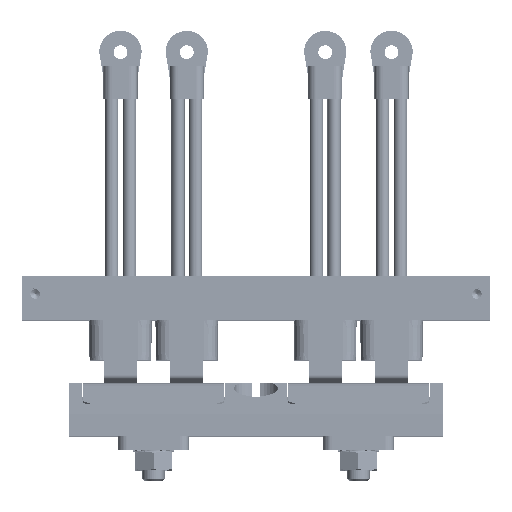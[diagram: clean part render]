
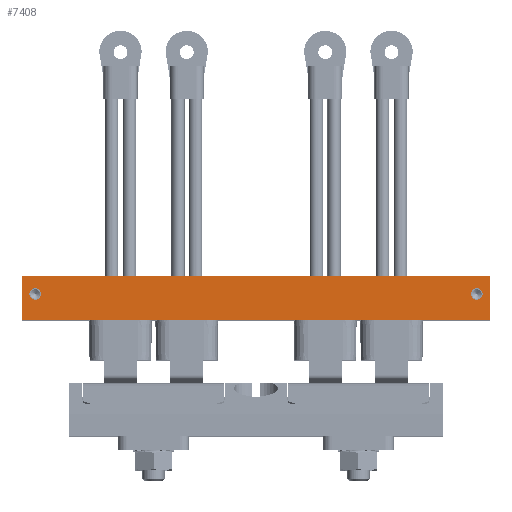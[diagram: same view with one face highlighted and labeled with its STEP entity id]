
A CAD part, top view. The second image highlights one B-rep face of the part: STEP entity #7408.
In plain terms, the highlighted planar face has unit normal (0, 0, 1) as drawn and (-1, 0, 0) by its records, which use the part's own axes.
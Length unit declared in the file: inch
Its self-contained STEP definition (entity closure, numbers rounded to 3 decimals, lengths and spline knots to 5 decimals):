
#148 = VECTOR ( 'NONE', #9162, 39.37008 ) ;
#579 = DIRECTION ( 'NONE',  ( 0., 0., -1. ) ) ;
#923 = FACE_BOUND ( 'NONE', #12789, .T. ) ;
#942 = DIRECTION ( 'NONE',  ( 0., 0., 1. ) ) ;
#1395 = CARTESIAN_POINT ( 'NONE',  ( 0., 0.625, -6.625 ) ) ;
#1423 = CIRCLE ( 'NONE', #25937, 0.082 ) ;
#1904 = EDGE_CURVE ( 'NONE', #3060, #21132, #21987, .T. ) ;
#2636 = DIRECTION ( 'NONE',  ( 0., -1., 0. ) ) ;
#3018 = ORIENTED_EDGE ( 'NONE', *, *, #18405, .F. ) ;
#3036 = CARTESIAN_POINT ( 'NONE',  ( 0., 0., 0. ) ) ;
#3060 = VERTEX_POINT ( 'NONE', #14306 ) ;
#3257 = CARTESIAN_POINT ( 'NONE',  ( 0., 0.625, 0. ) ) ;
#3474 = EDGE_LOOP ( 'NONE', ( #15408, #3920, #13281, #4333 ) ) ;
#3831 = EDGE_CURVE ( 'NONE', #8842, #25436, #22710, .T. ) ;
#3920 = ORIENTED_EDGE ( 'NONE', *, *, #23689, .F. ) ;
#4333 = ORIENTED_EDGE ( 'NONE', *, *, #1904, .T. ) ;
#4379 = AXIS2_PLACEMENT_3D ( 'NONE', #24167, #11947, #26198 ) ;
#4798 = DIRECTION ( 'NONE',  ( -1., 0., 0. ) ) ;
#4957 = CARTESIAN_POINT ( 'NONE',  ( 0., 0., -6.625 ) ) ;
#5282 = DIRECTION ( 'NONE',  ( 0., 0., 1. ) ) ;
#6008 = CARTESIAN_POINT ( 'NONE',  ( 0., 0.375, -6.4375 ) ) ;
#6317 = FACE_BOUND ( 'NONE', #15561, .T. ) ;
#6342 = CARTESIAN_POINT ( 'NONE',  ( 0., 0.375, -0.2695 ) ) ;
#7408 = ADVANCED_FACE ( 'NONE', ( #6317, #923, #11074 ), #8629, .F. ) ;
#7490 = DIRECTION ( 'NONE',  ( 0., -1., 0. ) ) ;
#7577 = VERTEX_POINT ( 'NONE', #3036 ) ;
#8043 = DIRECTION ( 'NONE',  ( 0., 0., 1. ) ) ;
#8128 = LINE ( 'NONE', #3257, #23770 ) ;
#8129 = CARTESIAN_POINT ( 'NONE',  ( 0., 0.375, -6.3555 ) ) ;
#8427 = VERTEX_POINT ( 'NONE', #15253 ) ;
#8629 = PLANE ( 'NONE',  #10567 ) ;
#8663 = CARTESIAN_POINT ( 'NONE',  ( 0., 0.625, 0. ) ) ;
#8842 = VERTEX_POINT ( 'NONE', #8129 ) ;
#9162 = DIRECTION ( 'NONE',  ( 0., 0., 1. ) ) ;
#9818 = AXIS2_PLACEMENT_3D ( 'NONE', #6008, #20251, #8043 ) ;
#10567 = AXIS2_PLACEMENT_3D ( 'NONE', #20838, #12725, #579 ) ;
#10933 = LINE ( 'NONE', #21220, #148 ) ;
#11074 = FACE_OUTER_BOUND ( 'NONE', #3474, .T. ) ;
#11104 = EDGE_CURVE ( 'NONE', #3060, #12741, #8128, .T. ) ;
#11669 = ORIENTED_EDGE ( 'NONE', *, *, #18025, .F. ) ;
#11947 = DIRECTION ( 'NONE',  ( -1., 0., 0. ) ) ;
#12393 = ORIENTED_EDGE ( 'NONE', *, *, #3831, .F. ) ;
#12725 = DIRECTION ( 'NONE',  ( 1., 0., 0. ) ) ;
#12741 = VERTEX_POINT ( 'NONE', #13661 ) ;
#12789 = EDGE_LOOP ( 'NONE', ( #12393, #3018 ) ) ;
#12833 = CIRCLE ( 'NONE', #13987, 0.082 ) ;
#13103 = DIRECTION ( 'NONE',  ( -1., 0., 0. ) ) ;
#13281 = ORIENTED_EDGE ( 'NONE', *, *, #11104, .F. ) ;
#13661 = CARTESIAN_POINT ( 'NONE',  ( 0., 0.625, 0. ) ) ;
#13662 = EDGE_CURVE ( 'NONE', #8427, #14951, #22678, .T. ) ;
#13987 = AXIS2_PLACEMENT_3D ( 'NONE', #17011, #4798, #19043 ) ;
#14306 = CARTESIAN_POINT ( 'NONE',  ( 0., 0.625, -6.625 ) ) ;
#14951 = VERTEX_POINT ( 'NONE', #6342 ) ;
#15253 = CARTESIAN_POINT ( 'NONE',  ( 0., 0.375, -0.1055 ) ) ;
#15408 = ORIENTED_EDGE ( 'NONE', *, *, #18117, .T. ) ;
#15561 = EDGE_LOOP ( 'NONE', ( #19498, #11669 ) ) ;
#16559 = VECTOR ( 'NONE', #7490, 39.37008 ) ;
#17011 = CARTESIAN_POINT ( 'NONE',  ( 0., 0.375, -6.4375 ) ) ;
#18025 = EDGE_CURVE ( 'NONE', #14951, #8427, #1423, .T. ) ;
#18117 = EDGE_CURVE ( 'NONE', #21132, #7577, #10933, .T. ) ;
#18405 = EDGE_CURVE ( 'NONE', #25436, #8842, #12833, .T. ) ;
#19043 = DIRECTION ( 'NONE',  ( 0., 0., 1. ) ) ;
#19498 = ORIENTED_EDGE ( 'NONE', *, *, #13662, .F. ) ;
#19916 = VECTOR ( 'NONE', #2636, 39.37008 ) ;
#20251 = DIRECTION ( 'NONE',  ( -1., 0., 0. ) ) ;
#20838 = CARTESIAN_POINT ( 'NONE',  ( 0., 0.625, 0. ) ) ;
#21132 = VERTEX_POINT ( 'NONE', #4957 ) ;
#21220 = CARTESIAN_POINT ( 'NONE',  ( 0., 0., 0. ) ) ;
#21987 = LINE ( 'NONE', #1395, #16559 ) ;
#22678 = CIRCLE ( 'NONE', #4379, 0.082 ) ;
#22710 = CIRCLE ( 'NONE', #9818, 0.082 ) ;
#23689 = EDGE_CURVE ( 'NONE', #12741, #7577, #25341, .T. ) ;
#23770 = VECTOR ( 'NONE', #5282, 39.37008 ) ;
#23905 = CARTESIAN_POINT ( 'NONE',  ( 0., 0.375, -6.5195 ) ) ;
#24167 = CARTESIAN_POINT ( 'NONE',  ( 0., 0.375, -0.1875 ) ) ;
#25314 = CARTESIAN_POINT ( 'NONE',  ( 0., 0.375, -0.1875 ) ) ;
#25341 = LINE ( 'NONE', #8663, #19916 ) ;
#25436 = VERTEX_POINT ( 'NONE', #23905 ) ;
#25937 = AXIS2_PLACEMENT_3D ( 'NONE', #25314, #13103, #942 ) ;
#26198 = DIRECTION ( 'NONE',  ( 0., 0., 1. ) ) ;
